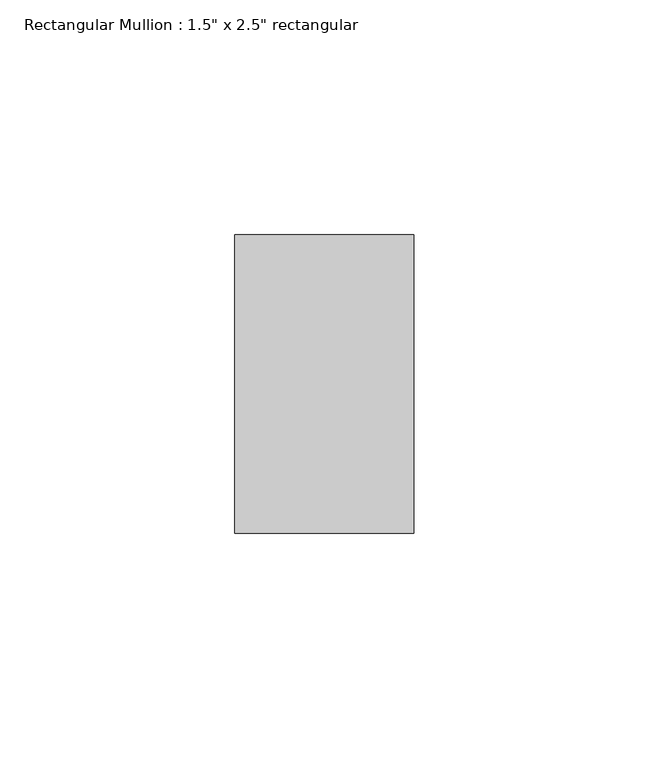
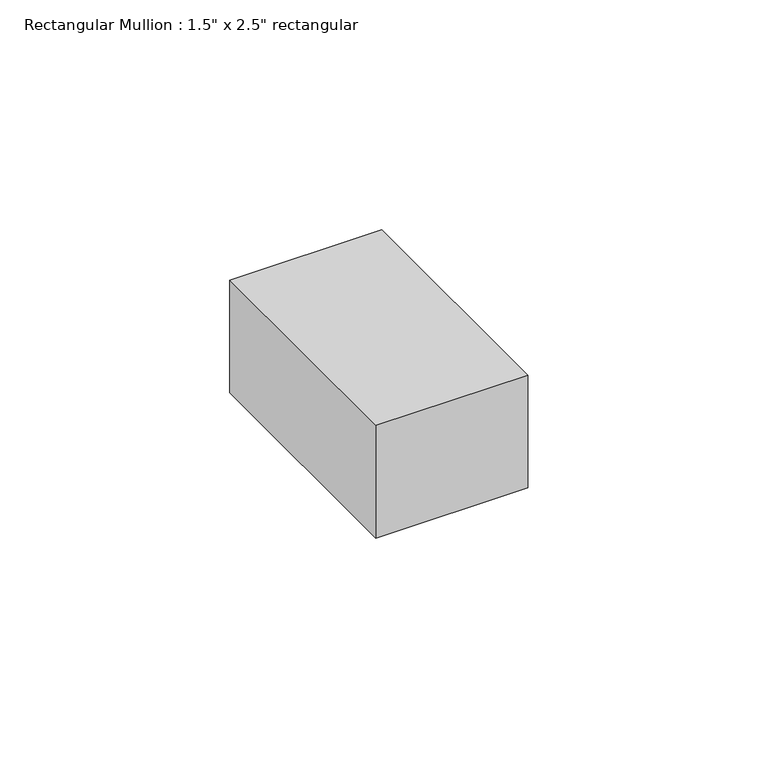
"""IFC4 building model written with IfcOpenShell, lengths in millimetres: member geometry."""

from ifc_helpers import new_model, si_unit, frame, origin, place, context, project, spatial, polyline, outline, extrude, source, transform, mapped, element, save


def member_8c8cb3fc(model_context):
    return source(origin(), model_context, "Body", "SweptSolid", [
        extrude(outline(polyline([(19.05, 31.75), (19.05, -31.75), (-19.05, -31.75), (-19.05, 31.75), (19.05, 31.75)])), frame((0.0, 0.0, -29.9355906), z_axis=(0.0, 0.0, 1.0), x_axis=(1.0, 0.0, 0.0)), (0.0, 0.0, 1.0), 29.9355906),
    ])


if __name__ == "__main__":
    model = new_model("IFC4")
    model_context = context("Model", 3, world=origin())
    ifc_project = project(units=[si_unit("LENGTHUNIT", "METRE", prefix="MILLI")], contexts=[model_context])
    site = spatial("IfcSite", under=ifc_project)
    building = spatial("IfcBuilding", under=site)
    placement = place(None, origin())
    member_shape = member_8c8cb3fc(model_context)
    element("IfcMember", 1, ObjectType="Rectangular Mullion : 1.5\" x 2.5\" rectangular", at=placement, inside=building, context=model_context, shape_type="MappedRepresentation", body=[
        mapped(member_shape, transform((0.0, 0.0, 0.0), x_axis=(1.0, 0.0, 0.0), y_axis=(0.0, 1.0, 0.0), z_axis=(0.0, 0.0, 1.0))),
    ])
    save(model, "model.ifc")
